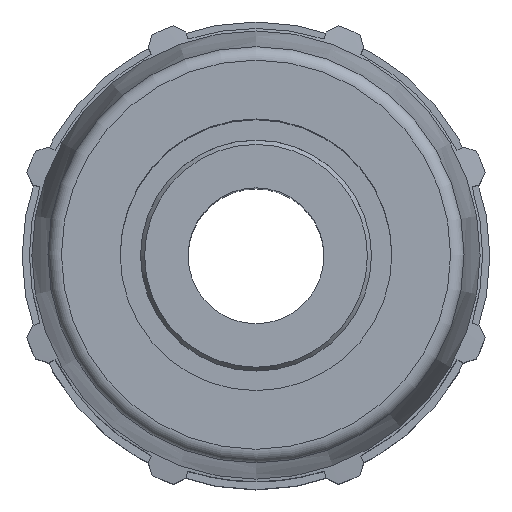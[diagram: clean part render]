
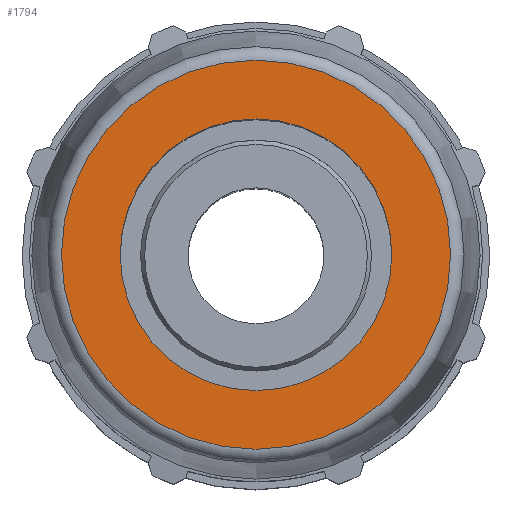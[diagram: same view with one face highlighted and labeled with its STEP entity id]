
A CAD part, top view. The second image highlights one B-rep face of the part: STEP entity #1794.
In plain terms, the highlighted planar face has unit normal (0, 0, 1).
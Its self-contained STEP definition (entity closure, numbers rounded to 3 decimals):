
#305=FACE_BOUND('',#468,.T.);
#321=PLANE('',#1920);
#370=FACE_OUTER_BOUND('',#467,.T.);
#467=EDGE_LOOP('',(#1223,#1224));
#468=EDGE_LOOP('',(#1225,#1226));
#582=CIRCLE('',#1917,45.121);
#583=CIRCLE('',#1918,45.121);
#585=CIRCLE('',#1921,31.5);
#586=CIRCLE('',#1922,31.5);
#730=VERTEX_POINT('',#2762);
#731=VERTEX_POINT('',#2764);
#732=VERTEX_POINT('',#2769);
#733=VERTEX_POINT('',#2770);
#934=EDGE_CURVE('',#730,#731,#582,.T.);
#935=EDGE_CURVE('',#731,#730,#583,.T.);
#937=EDGE_CURVE('',#732,#733,#585,.T.);
#938=EDGE_CURVE('',#733,#732,#586,.T.);
#1223=ORIENTED_EDGE('',*,*,#935,.F.);
#1224=ORIENTED_EDGE('',*,*,#934,.F.);
#1225=ORIENTED_EDGE('',*,*,#937,.T.);
#1226=ORIENTED_EDGE('',*,*,#938,.T.);
#1794=ADVANCED_FACE('',(#370,#305),#321,.T.);
#1917=AXIS2_PLACEMENT_3D('',#2765,#2168,#2169);
#1918=AXIS2_PLACEMENT_3D('',#2766,#2170,#2171);
#1920=AXIS2_PLACEMENT_3D('',#2768,#2174,#2175);
#1921=AXIS2_PLACEMENT_3D('',#2771,#2176,#2177);
#1922=AXIS2_PLACEMENT_3D('',#2772,#2178,#2179);
#2168=DIRECTION('center_axis',(0.,0.,-1.));
#2169=DIRECTION('ref_axis',(0.,-1.,0.));
#2170=DIRECTION('center_axis',(0.,0.,-1.));
#2171=DIRECTION('ref_axis',(0.,-1.,0.));
#2174=DIRECTION('center_axis',(0.,0.,1.));
#2175=DIRECTION('ref_axis',(1.,0.,0.));
#2176=DIRECTION('center_axis',(0.,0.,-1.));
#2177=DIRECTION('ref_axis',(1.,0.,0.));
#2178=DIRECTION('center_axis',(0.,0.,-1.));
#2179=DIRECTION('ref_axis',(1.,0.,0.));
#2762=CARTESIAN_POINT('',(45.121,0.,0.));
#2764=CARTESIAN_POINT('',(0.,45.121,0.));
#2765=CARTESIAN_POINT('Origin',(0.,0.,0.));
#2766=CARTESIAN_POINT('Origin',(0.,0.,0.));
#2768=CARTESIAN_POINT('Origin',(0.,47.971,0.));
#2769=CARTESIAN_POINT('',(0.,31.5,0.));
#2770=CARTESIAN_POINT('',(0.,-31.5,0.));
#2771=CARTESIAN_POINT('Origin',(0.,0.,0.));
#2772=CARTESIAN_POINT('Origin',(0.,0.,0.));
